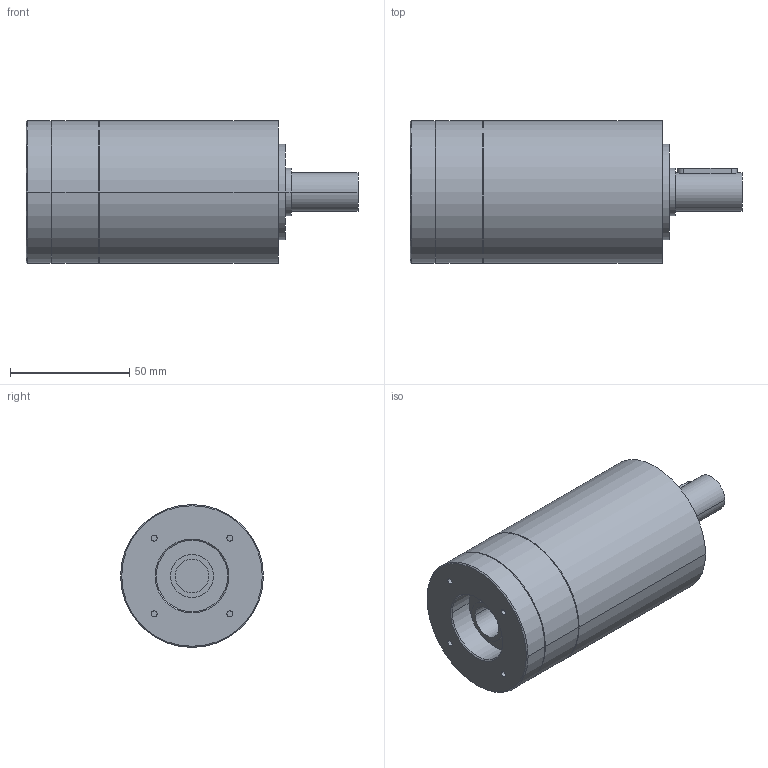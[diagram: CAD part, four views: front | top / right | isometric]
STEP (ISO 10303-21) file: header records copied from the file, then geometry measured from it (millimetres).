
FILE_DESCRIPTION(('CoCreate Modeling STEP Export'),'2;1');
FILE_NAME('GPR75_ig-9-12-16-20-24-30-36_16_B14_14_P29.stp','2014-08-25T16:03:38',(''),(''),'CoCreate Modeling STEP processor for AP214 (Solid Model)','CoCreate Modeling 16.00C 25-Feb-2009 (C) Parametric Technology GmbH','');
FILE_SCHEMA(('AUTOMOTIVE_DESIGN { 1 0 10303 214 1 1 1 1 }'));
Length unit declared in the file: millimetre
Products named in the file (2): GPR75_ig-9-12-16-20-24-30-36_16_B14_14_P29
Assembly tree (1 placements, depth 2):
  GPR75_ig-9-12-16-20-24-30-36_16_B14_14_P29
    GPR75_ig-9-12-16-20-24-30-36_16_B14_14_P29
Bounding box: 139.4 x 60 x 60 mm (x, y, z)
Volume: 297970.9 mm3; surface area: 31391.7 mm2
Topology: 1 solids, 1 shells, 69 faces, 172 edges, 120 vertices
Faces by surface type: cylinder 38, plane 21, cone 10
Entity records: 1746 total; most frequent: ORIENTED_EDGE 340, CARTESIAN_POINT 324, DIRECTION 226, EDGE_CURVE 170, VERTEX_POINT 120, AXIS2_PLACEMENT_3D 86, EDGE_LOOP 86, FACE_OUTER_BOUND 69
